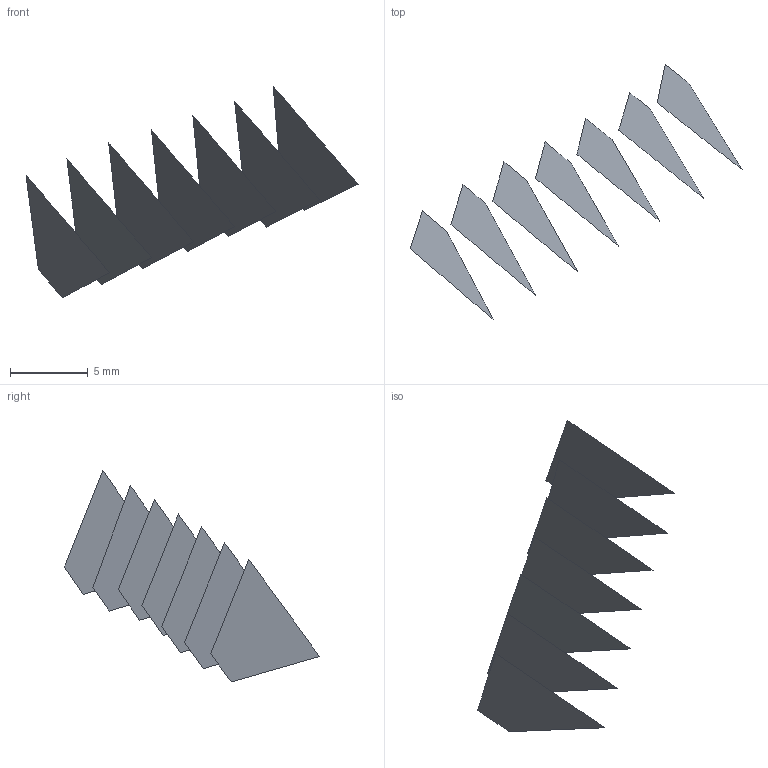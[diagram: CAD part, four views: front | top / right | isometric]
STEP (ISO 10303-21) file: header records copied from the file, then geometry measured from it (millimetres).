
FILE_DESCRIPTION(('FreeCAD Model'),'2;1');
FILE_NAME('Open CASCADE Shape Model','2022-05-22T07:50:32',('FreeCAD'),( 'FreeCAD'),'Open CASCADE STEP processor 7.5','FreeCAD','Unknown');
FILE_SCHEMA(('AUTOMOTIVE_DESIGN { 1 0 10303 214 1 1 1 1 }'));
Length unit declared in the file: millimetre
Products named in the file (8): Open CASCADE STEP translator 7.5 1; Open CASCADE STEP translator 7.5 1.1; Open CASCADE STEP translator 7.5 1.2; Open CASCADE STEP translator 7.5 1.3; Open CASCADE STEP translator 7.5 1.4; Open CASCADE STEP translator 7.5 1.5; Open CASCADE STEP translator 7.5 1.6; Open CASCADE STEP translator 7.5 1.7
Assembly tree (7 placements, depth 2):
  Open CASCADE STEP translator 7.5 1
    Open CASCADE STEP translator 7.5 1.1
    Open CASCADE STEP translator 7.5 1.2
    Open CASCADE STEP translator 7.5 1.3
    Open CASCADE STEP translator 7.5 1.4
    Open CASCADE STEP translator 7.5 1.5
    Open CASCADE STEP translator 7.5 1.6
    Open CASCADE STEP translator 7.5 1.7
Bounding box: 21.31 x 16.36 x 13.6 mm (x, y, z)
Surface area: 243.2 mm2 (no closed solid volume)
Topology: 0 solids, 7 shells, 7 faces, 129 edges, 129 vertices
Faces by surface type: bspline 7
Entity records: 1889 total; most frequent: CARTESIAN_POINT 681, B_SPLINE_CURVE_WITH_KNOTS 258, ORIENTED_EDGE 129, EDGE_CURVE 129, VERTEX_POINT 129, SURFACE_CURVE 129, PCURVE 129, DEFINITIONAL_REPRESENTATION 129
